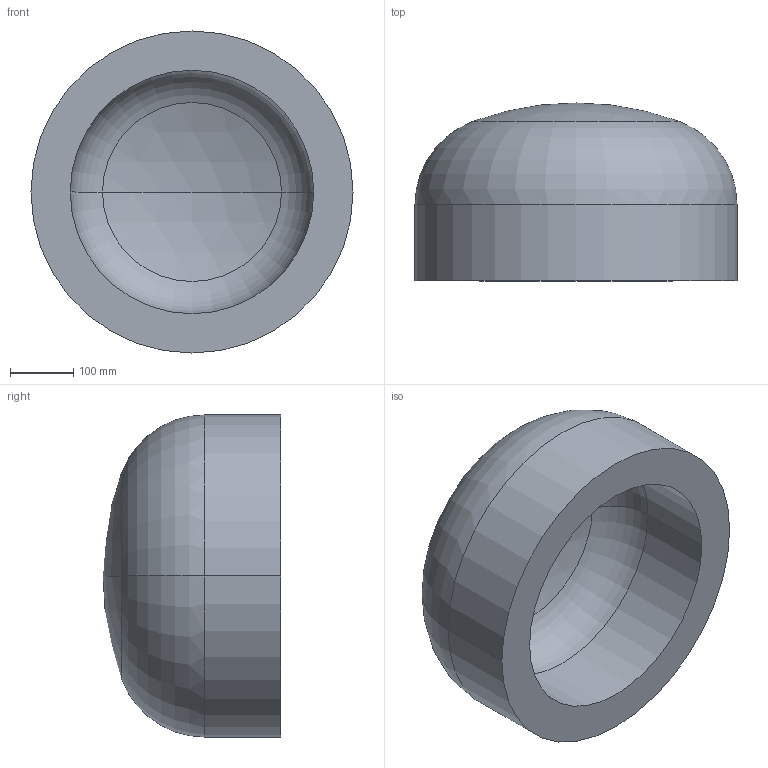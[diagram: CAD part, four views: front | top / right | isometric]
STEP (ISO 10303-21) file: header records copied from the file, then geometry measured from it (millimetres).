
FILE_DESCRIPTION (( 'STEP AP203' ), '1' );
FILE_NAME ('DIN 28013 Korbbogenform_-_Boden DIN 28013 - 508 x 120 - I - s=62.step', '2016-07-01T07:56:15', ( '' ), ( '' ), 'SwSTEP 2.0', 'SolidWorks 2013', '' );
FILE_SCHEMA (( 'CONFIG_CONTROL_DESIGN' ));
Length unit declared in the file: millimetre
Products named in the file (1): DIN 28013 Korbbogenform_-_Boden DIN 28013 - 508 x 120 - I - s=62
Bounding box: 508 x 280.45 x 508 mm (x, y, z)
Volume: 25412399.6 mm3; surface area: 914676.9 mm2
Topology: 1 solids, 1 shells, 13 faces, 24 edges, 14 vertices
Faces by surface type: torus 4, cylinder 4, sphere 4, plane 1
Entity records: 407 total; most frequent: DIRECTION 72, CARTESIAN_POINT 52, ORIENTED_EDGE 48, AXIS2_PLACEMENT_3D 34, EDGE_CURVE 24, CIRCLE 20, VERTEX_POINT 14, EDGE_LOOP 14
